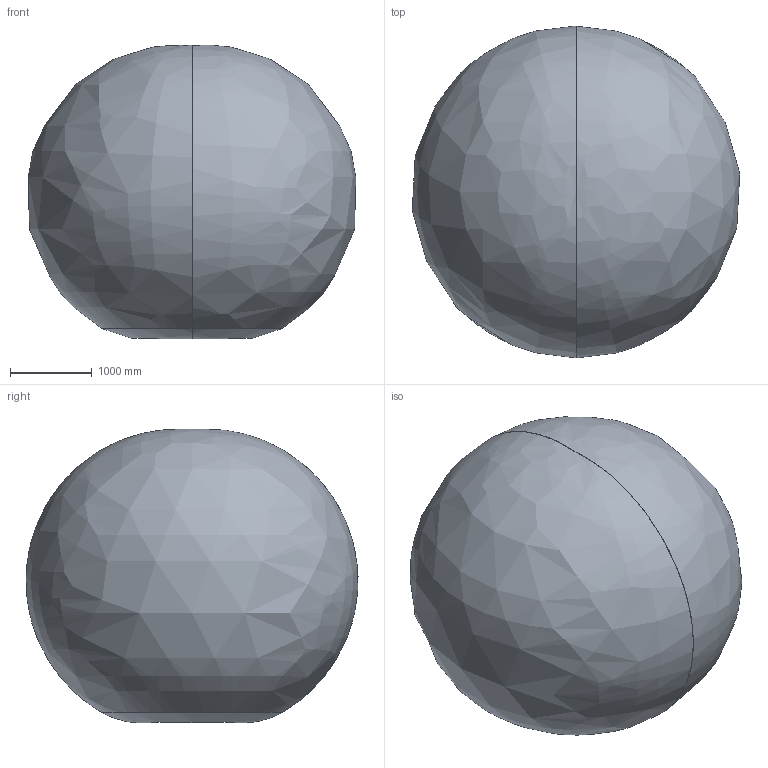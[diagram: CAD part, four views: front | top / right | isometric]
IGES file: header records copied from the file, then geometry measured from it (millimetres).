
Start section: SolidWorks IGES file using analytic representation for surfaces
Global section: file name: C:\Data\SAP_DOC\_2016-Q4_Lättmodeller RobCal\CAD Model_IRB4600_Rev04\IRB4600_45kg-205_IRC5_rev04\IRB4600_45kg-205_IRC5_rev04_IRC5_IGES_j\IRB4600_45kg-205_WORKING-SPACE_rev00.IGS; native system: SolidWorks 2014; preprocessor: SolidWorks 2014; author: SEMAAXM; date: 161206.113117; units: millimetre
Bounding box: 4013.57 x 4068.31 x 3598.86 mm (x, y, z)
Surface area: 53893394.7 mm2 (no closed solid volume)
Topology: 0 solids, 0 shells, 8 faces, 32 edges, 24 vertices
Faces by surface type: bspline 8
